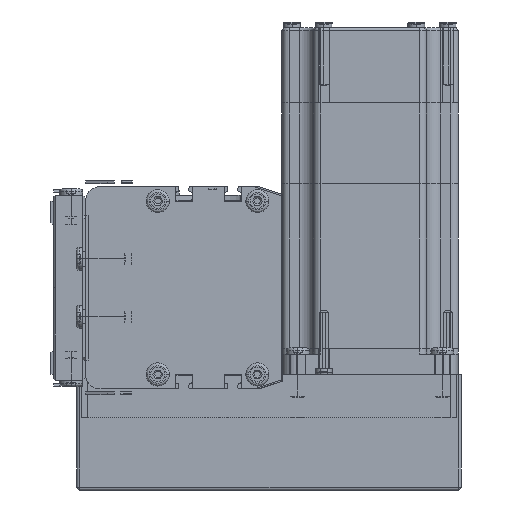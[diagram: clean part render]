
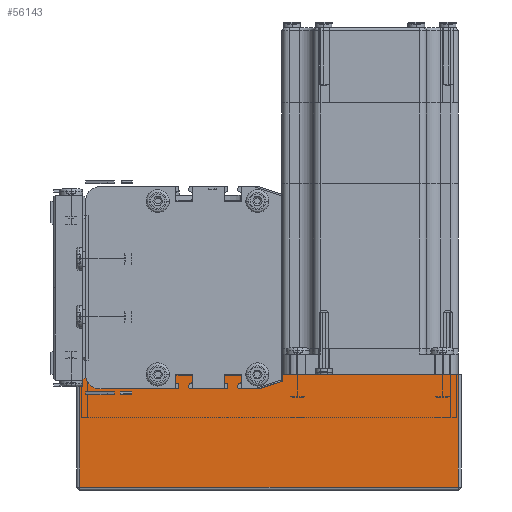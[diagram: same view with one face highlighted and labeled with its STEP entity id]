
A CAD part, left-side view. The second image highlights one B-rep face of the part: STEP entity #56143.
In plain terms, the highlighted planar face has unit normal (-1, 0, 0) as drawn and (0, 1, 0) by its records, which use the part's own axes.
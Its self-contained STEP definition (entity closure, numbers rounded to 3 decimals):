
#7784 = CARTESIAN_POINT ( 'NONE',  ( 1., 62., 39. ) ) ;
#7869 = CARTESIAN_POINT ( 'NONE',  ( 132., 62., 39. ) ) ;
#8095 = AXIS2_PLACEMENT_3D ( 'NONE', #8144, #8217, #8216 ) ;
#8144 = CARTESIAN_POINT ( 'NONE',  ( 0., 62., 40. ) ) ;
#8175 = DIRECTION ( 'NONE',  ( 1., 0., 0. ) ) ;
#8176 = VECTOR ( 'NONE', #8175, 1000. ) ;
#8178 = CARTESIAN_POINT ( 'NONE',  ( 0., 62., 39. ) ) ;
#8181 = LINE ( 'NONE', #8178, #8176 ) ;
#8190 = DIRECTION ( 'NONE',  ( 0., 0., 1. ) ) ;
#8191 = VECTOR ( 'NONE', #8190, 1000. ) ;
#8193 = CARTESIAN_POINT ( 'NONE',  ( 1., 62., 40. ) ) ;
#8194 = LINE ( 'NONE', #8193, #8191 ) ;
#8196 = VECTOR ( 'NONE', #8199, 1000. ) ;
#8199 = DIRECTION ( 'NONE',  ( 0., 0., -1. ) ) ;
#8201 = CARTESIAN_POINT ( 'NONE',  ( 132., 62., 40. ) ) ;
#8212 = PLANE ( 'NONE',  #8095 ) ;
#8214 = FACE_OUTER_BOUND ( 'NONE', #56075, .T. ) ;
#8216 = DIRECTION ( 'NONE',  ( 0., 0., -1. ) ) ;
#8217 = DIRECTION ( 'NONE',  ( 0., -1., 0. ) ) ;
#8219 = LINE ( 'NONE', #8201, #8196 ) ;
#56037 = VERTEX_POINT ( 'NONE', #111050 ) ;
#56039 = EDGE_CURVE ( 'NONE', #56042, #56037, #111070, .T. ) ;
#56042 = VERTEX_POINT ( 'NONE', #111062 ) ;
#56073 = VERTEX_POINT ( 'NONE', #7784 ) ;
#56075 = EDGE_LOOP ( 'NONE', ( #56145, #56144, #56151, #56150 ) ) ;
#56084 = VERTEX_POINT ( 'NONE', #7869 ) ;
#56143 = ADVANCED_FACE ( 'NONE', ( #8214 ), #8212, .F. ) ;
#56144 = ORIENTED_EDGE ( 'NONE', *, *, #56146, .T. ) ;
#56145 = ORIENTED_EDGE ( 'NONE', *, *, #56156, .T. ) ;
#56146 = EDGE_CURVE ( 'NONE', #56084, #56042, #8219, .T. ) ;
#56147 = EDGE_CURVE ( 'NONE', #56037, #56073, #8194, .T. ) ;
#56150 = ORIENTED_EDGE ( 'NONE', *, *, #56147, .T. ) ;
#56151 = ORIENTED_EDGE ( 'NONE', *, *, #56039, .T. ) ;
#56156 = EDGE_CURVE ( 'NONE', #56073, #56084, #8181, .T. ) ;
#111024 = DIRECTION ( 'NONE',  ( -1., 0., 0. ) ) ;
#111026 = VECTOR ( 'NONE', #111024, 1000. ) ;
#111027 = CARTESIAN_POINT ( 'NONE',  ( 0., 62., 0. ) ) ;
#111050 = CARTESIAN_POINT ( 'NONE',  ( 1., 62., 0. ) ) ;
#111062 = CARTESIAN_POINT ( 'NONE',  ( 132., 62., 0. ) ) ;
#111070 = LINE ( 'NONE', #111027, #111026 ) ;
